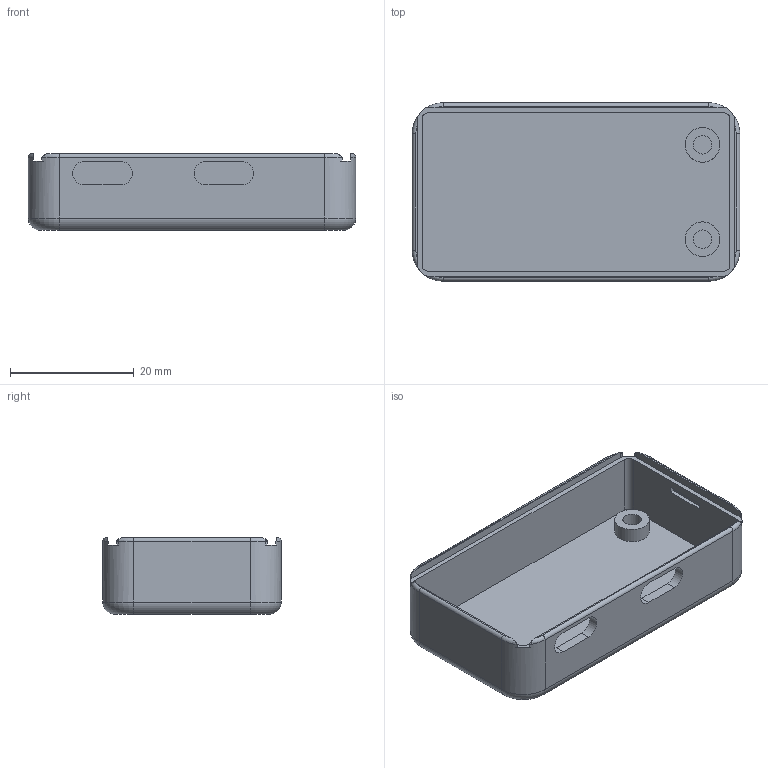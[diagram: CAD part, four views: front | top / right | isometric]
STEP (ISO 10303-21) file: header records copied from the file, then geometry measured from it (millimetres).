
FILE_DESCRIPTION(('Open CASCADE Model'),'2;1');
FILE_NAME('Open CASCADE Shape Model','2026-11-03T19:16:51',('Author'),( 'Open CASCADE'),'Open CASCADE STEP processor 7.9','Open CASCADE 7.9' ,'Unknown');
FILE_SCHEMA(('AUTOMOTIVE_DESIGN { 1 0 10303 214 1 1 1 1 }'));
Length unit declared in the file: millimetre
Products named in the file (1): Open CASCADE STEP translator 7.9 1
Bounding box: 52.9 x 28.8 x 12.4 mm (x, y, z)
Volume: 4057.7 mm3; surface area: 6508.2 mm2
Topology: 1 solids, 1 shells, 81 faces, 200 edges, 128 vertices
Faces by surface type: plane 37, cylinder 32, torus 12
Full cylindrical faces by diameter (mm): 3 x2, 5.6 x2
Entity records: 5875 total; most frequent: CARTESIAN_POINT 1968, DIRECTION 691, ORIENTED_EDGE 400, PCURVE 400, DEFINITIONAL_REPRESENTATION 400, LINE 332, VECTOR 332, EDGE_CURVE 200
